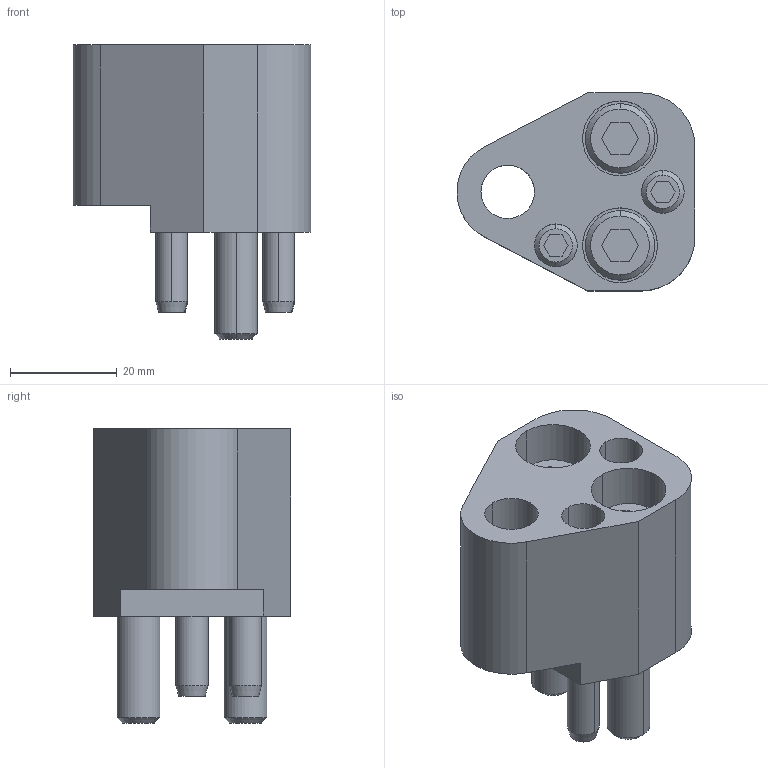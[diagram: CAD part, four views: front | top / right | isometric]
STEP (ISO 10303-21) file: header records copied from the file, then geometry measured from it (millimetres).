
FILE_DESCRIPTION(/* description */ (''),/* implementation_level */ '2;1');
FILE_NAME(/* name */ '3d_hapfr10_04015_r00.stp',/* time_stamp */ '2011-01-10T14:14:57+09:00',/* author */ ('MISUMI'),/* organization */ (''),/* preprocessor_version */ 'ST-DEVELOPER v11',/* originating_system */ 'UGS - NX 5.0',/* authorisation */ '');
FILE_SCHEMA (('CONFIG_CONTROL_DESIGN'));
Length unit declared in the file: millimetre
Products named in the file (1): 3d_hapfr10_04015_r00
Bounding box: 44.47 x 37 x 55 mm (x, y, z)
Volume: 38898.9 mm3; surface area: 16965.2 mm2
Topology: 7 solids, 7 shells, 134 faces, 298 edges, 191 vertices
Faces by surface type: plane 61, cylinder 47, cone 26
Entity records: 3858 total; most frequent: CARTESIAN_POINT 683, DIRECTION 682, ORIENTED_EDGE 596, EDGE_CURVE 298, AXIS2_PLACEMENT_3D 256, VERTEX_POINT 191, LINE 170, VECTOR 170
